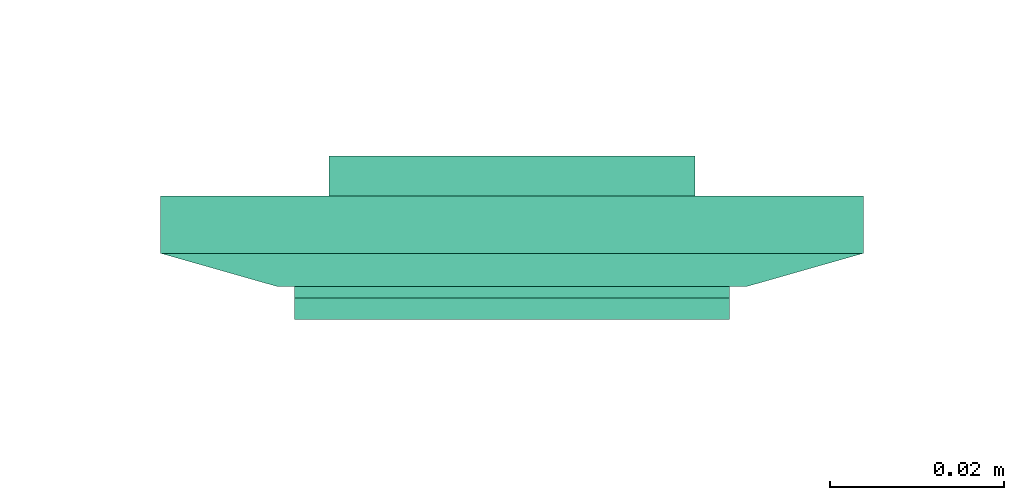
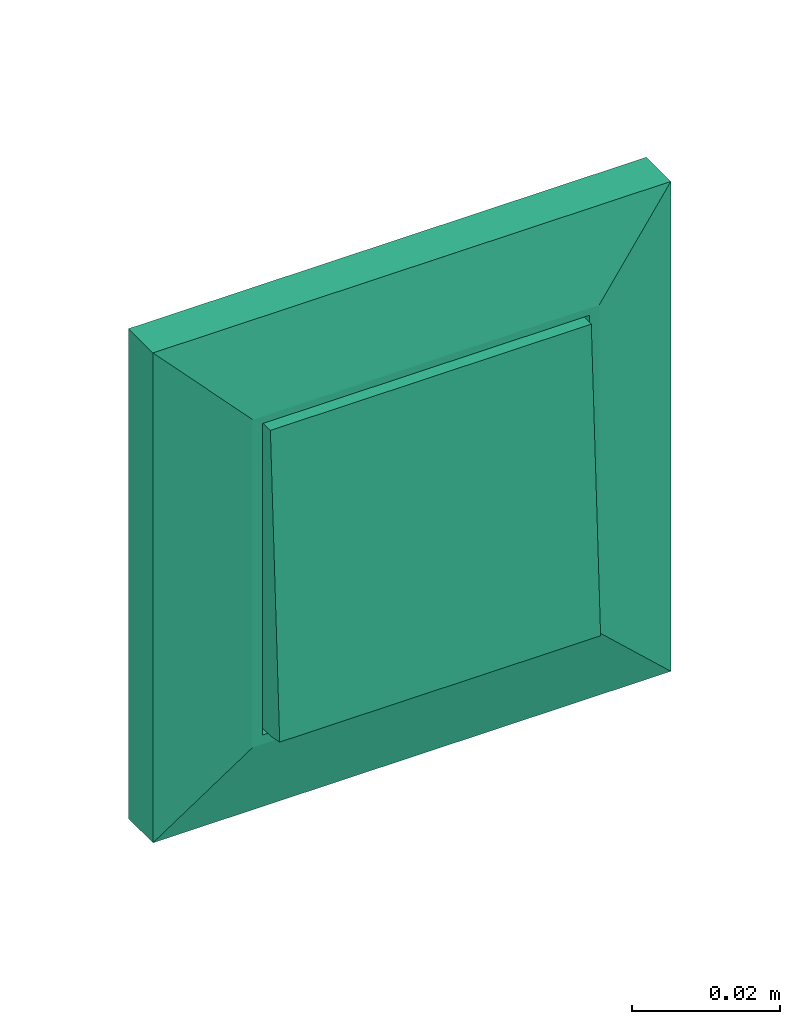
# One storey, part 55 of 153: 1 flow terminal.
"""IFC2X3 building model written with IfcOpenShell, lengths in metres."""

from ifc_helpers import new_model, entity, si_unit, converted_unit, derived_unit, direction, frame, origin, place, context, subcontext, project, spatial, faceted_brep, source, transform, mapped, type_object, type_shapes, element, save


model = new_model("IFC2X3")

# Units and contexts
model_context = context("Model", 3, precision=1e-05, world=origin(), true_north=direction((6.12303176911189e-17, 1.0)))
body_context = subcontext(model_context, "Body", "Model", "MODEL_VIEW")
ifc_project = project(units=[si_unit("LENGTHUNIT", "METRE"), si_unit("AREAUNIT", "SQUARE_METRE"), si_unit("VOLUMEUNIT", "CUBIC_METRE"), converted_unit("PLANEANGLEUNIT", "DEGREE", entity("IfcRatioMeasure", 0.0174532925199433), si_unit("PLANEANGLEUNIT", "RADIAN"), dimensions=[0, 0, 0, 0, 0, 0, 0]), si_unit("MASSUNIT", "GRAM", prefix="KILO"), derived_unit("MASSDENSITYUNIT", [(si_unit("MASSUNIT", "GRAM", prefix="KILO"), 1), (si_unit("LENGTHUNIT", "METRE"), -3)]), si_unit("TIMEUNIT", "SECOND"), si_unit("FREQUENCYUNIT", "HERTZ"), si_unit("THERMODYNAMICTEMPERATUREUNIT", "DEGREE_CELSIUS"), derived_unit("THERMALTRANSMITTANCEUNIT", [(si_unit("MASSUNIT", "GRAM", prefix="KILO"), 1), (si_unit("THERMODYNAMICTEMPERATUREUNIT", "KELVIN"), -1), (si_unit("TIMEUNIT", "SECOND"), -3)]), derived_unit("VOLUMETRICFLOWRATEUNIT", [(si_unit("LENGTHUNIT", "METRE"), 3), (si_unit("TIMEUNIT", "SECOND"), -1)]), si_unit("ELECTRICCURRENTUNIT", "AMPERE"), si_unit("ELECTRICVOLTAGEUNIT", "VOLT"), si_unit("POWERUNIT", "WATT"), si_unit("FORCEUNIT", "NEWTON"), si_unit("ILLUMINANCEUNIT", "LUX"), si_unit("LUMINOUSFLUXUNIT", "LUMEN"), si_unit("LUMINOUSINTENSITYUNIT", "CANDELA"), derived_unit("USERDEFINED", [(si_unit("MASSUNIT", "GRAM", prefix="KILO"), -1), (si_unit("LENGTHUNIT", "METRE"), -2), (si_unit("TIMEUNIT", "SECOND"), 3), (si_unit("LUMINOUSFLUXUNIT", "LUMEN"), 1)]), derived_unit("LINEARVELOCITYUNIT", [(si_unit("LENGTHUNIT", "METRE"), 1), (si_unit("TIMEUNIT", "SECOND"), -1)]), si_unit("PRESSUREUNIT", "PASCAL"), derived_unit("USERDEFINED", [(si_unit("LENGTHUNIT", "METRE"), -2), (si_unit("MASSUNIT", "GRAM", prefix="KILO"), 1), (si_unit("TIMEUNIT", "SECOND"), -2)])], contexts=[model_context])

# Site, building, storey
site_placement = place(None, origin())
site = spatial("IfcSite", under=ifc_project, at=site_placement, Name="Default", CompositionType="ELEMENT")
building_placement = place(site_placement, origin())
building = spatial("IfcBuilding", under=site, at=building_placement, CompositionType="ELEMENT")
storey_placement = place(building_placement, frame((0.0, 0.0, -4.62)))
storey = spatial("IfcBuildingStorey", under=building, at=storey_placement, Name="S02", CompositionType="ELEMENT", Elevation=-4.62)

# Flow terminal
light_fixture_type = type_object("IfcLightFixtureType", Name="SA IP44", PredefinedType="NOTDEFINED")
shared_shape = source(origin(), body_context, "Body", "Brep", [
    faceted_brep([(0.0, 0.0209999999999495, -0.00460000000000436), (0.00543519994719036, 0.02028444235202, -0.00460000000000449), (0.0105000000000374, 0.0181865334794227, -0.00460000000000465), (0.0148492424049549, 0.014849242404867, -0.00460000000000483), (0.0181865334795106, 0.0104999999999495, -0.00460000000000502), (0.0202844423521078, 0.00543519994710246, -0.00460000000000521), (0.0210000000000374, 0.0, -0.00460000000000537), (0.0202844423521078, -0.00543519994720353, -0.00460000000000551), (0.0181865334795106, -0.0105000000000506, -0.0046000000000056), (0.0148492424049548, -0.0148492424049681, -0.00460000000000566), (0.0105000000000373, -0.0181865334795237, -0.00460000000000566), (0.00543519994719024, -0.0202844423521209, -0.00460000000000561), (0.0, -0.0210000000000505, -0.00460000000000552), (-0.00543519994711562, -0.0202844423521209, -0.00460000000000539), (-0.0104999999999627, -0.0181865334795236, -0.00460000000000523), (-0.0148492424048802, -0.0148492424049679, -0.00460000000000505), (-0.0181865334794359, -0.0105000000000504, -0.00460000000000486), (-0.0202844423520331, -0.00543519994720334, -0.00460000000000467), (-0.0209999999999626, 0.0, -0.00460000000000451), (-0.020284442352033, 0.00543519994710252, -0.00460000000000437), (-0.0181865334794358, 0.0104999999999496, -0.00460000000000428), (-0.0148492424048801, 0.0148492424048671, -0.00460000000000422), (-0.0104999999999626, 0.0181865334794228, -0.00460000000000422), (-0.00543519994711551, 0.02028444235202, -0.00460000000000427), (-0.020284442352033, -0.00543519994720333, 0.0), (-0.0209999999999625, 0.0, 0.0), (-0.0181865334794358, -0.0105000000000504, 0.0), (-0.0104999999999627, -0.0181865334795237, 0.0), (-0.0148492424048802, -0.0148492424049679, 0.0), (-0.00543519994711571, -0.020284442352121, 0.0), (0.0, -0.0210000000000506, 0.0), (0.00543519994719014, -0.0202844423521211, 0.0), (0.0105000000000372, -0.018186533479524, 0.0), (0.0181865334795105, -0.0105000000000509, 0.0), (0.0148492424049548, -0.0148492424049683, 0.0), (0.0202844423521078, -0.00543519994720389, 0.0), (0.0210000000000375, 0.0, 0.0), (0.0202844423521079, 0.00543519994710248, 0.0), (0.0181865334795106, 0.0104999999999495, 0.0), (0.0105000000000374, 0.0181865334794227, 0.0), (0.0148492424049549, 0.014849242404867, 0.0), (0.00543519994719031, 0.0202844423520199, 0.0), (0.0, 0.0209999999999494, 0.0), (-0.00543519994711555, 0.0202844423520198, 0.0), (-0.0104999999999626, 0.0181865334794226, 0.0), (-0.0181865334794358, 0.0104999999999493, 0.0), (-0.0148492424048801, 0.0148492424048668, 0.0), (-0.020284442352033, 0.00543519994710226, 0.0)], [[[0, 1, 2, 3, 4, 5, 6, 7, 8, 9, 10, 11, 12, 13, 14, 15, 16, 17, 18, 19, 20, 21, 22, 23]], [[17, 24, 25, 18]], [[16, 26, 24, 17]], [[27, 28, 15, 14]], [[16, 15, 28, 26]], [[29, 27, 14, 13]], [[30, 29, 13, 12]], [[11, 31, 30, 12]], [[10, 32, 31, 11]], [[33, 34, 9, 8]], [[10, 9, 34, 32]], [[35, 33, 8, 7]], [[36, 35, 7, 6]], [[5, 37, 36, 6]], [[4, 38, 37, 5]], [[39, 40, 3, 2]], [[4, 3, 40, 38]], [[41, 39, 2, 1]], [[42, 41, 1, 0]], [[23, 43, 42, 0]], [[22, 44, 43, 23]], [[45, 46, 21, 20]], [[22, 21, 46, 44]], [[47, 45, 20, 19]], [[25, 47, 19, 18]], [[25, 24, 26, 28, 27, 29, 30, 31, 32, 34, 33, 35, 36, 37, 38, 40, 39, 41, 42, 43, 44, 46, 45, 47]]]),
    faceted_brep([(0.0270000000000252, 0.026999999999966, 0.0103999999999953), (-0.0269999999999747, 0.026999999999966, 0.0103999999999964), (-0.0269999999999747, -0.0270000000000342, 0.0103999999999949), (0.0270000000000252, -0.0270000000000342, 0.0103999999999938), (-0.0254999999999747, 0.0258096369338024, 0.0103999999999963), (0.0255000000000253, 0.0258096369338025, 0.0103999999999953), (0.0255000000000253, -0.0255000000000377, 0.0103999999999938), (-0.0254999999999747, -0.0255000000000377, 0.0103999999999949), (0.0270000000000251, 0.0269999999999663, 0.00199999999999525), (0.0270000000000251, -0.0270000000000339, 0.00199999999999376), (-0.0269999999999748, -0.0270000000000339, 0.00199999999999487), (-0.0269999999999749, 0.0269999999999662, 0.00199999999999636), (0.0255000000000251, 0.0258096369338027, 0.00199999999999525), (-0.0254999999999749, 0.0258096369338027, 0.0019999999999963), (-0.0254999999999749, -0.0255000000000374, 0.00199999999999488), (0.0255000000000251, -0.0255000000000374, 0.00199999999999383)], [[[0, 1, 2, 3], [4, 5, 6, 7]], [[8, 9, 10, 11], [12, 13, 14, 15]], [[1, 0, 8, 11]], [[2, 1, 11, 10]], [[3, 2, 10, 9]], [[0, 3, 9, 8]], [[12, 5, 4, 13]], [[13, 4, 7, 14]], [[14, 7, 6, 15]], [[5, 12, 15, 6]]]),
    faceted_brep([(0.0250000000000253, 0.0253096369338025, 0.00659999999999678), (0.0250000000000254, 0.0253096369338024, 0.0117095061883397), (0.0250000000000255, -0.0245000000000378, 0.0142232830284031), (0.0250000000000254, -0.0250000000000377, 0.0117095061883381), (0.0250000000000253, -0.0250000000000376, 0.00659999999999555), (-0.0249999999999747, 0.0253096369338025, 0.00659999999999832), (-0.0249999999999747, -0.0250000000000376, 0.00659999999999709), (-0.0249999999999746, -0.0250000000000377, 0.0117095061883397), (-0.0249999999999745, -0.0245000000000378, 0.0142232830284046), (-0.0249999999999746, 0.0253096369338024, 0.0117095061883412)], [[[0, 1, 2, 3, 4]], [[5, 6, 7, 8, 9]], [[1, 0, 5, 9]], [[2, 1, 9, 8]], [[3, 2, 8, 7]], [[4, 3, 7, 6]], [[0, 4, 6, 5]]]),
    faceted_brep([(0.027000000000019, 0.0269999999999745, 0.00659999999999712), (-0.0269999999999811, 0.0269999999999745, 0.00659999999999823), (-0.026999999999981, -0.0270000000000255, 0.00659999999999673), (0.027000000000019, -0.0270000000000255, 0.00659999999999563), (0.040350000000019, 0.0403499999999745, 0.00659999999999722), (0.040350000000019, -0.0403500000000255, 0.00659999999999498), (-0.0403499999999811, -0.0403500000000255, 0.00659999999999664), (-0.0403499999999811, 0.0403499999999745, 0.00659999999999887), (-0.026999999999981, 0.0269999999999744, 0.0103999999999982), (0.027000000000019, 0.0269999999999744, 0.0103999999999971), (-0.026999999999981, -0.0270000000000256, 0.0103999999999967), (0.027000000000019, -0.0270000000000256, 0.0103999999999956)], [[[0, 1, 2, 3], [4, 5, 6, 7]], [[4, 7, 8, 9]], [[7, 6, 10, 8]], [[6, 5, 11, 10]], [[5, 4, 9, 11]], [[0, 9, 8, 1]], [[1, 8, 10, 2]], [[2, 10, 11, 3]], [[9, 0, 3, 11]]], outer=[[False, True], [True], [True], [True], [True], [True], [True], [True], [True]]),
    faceted_brep([(0.040350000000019, 0.0403499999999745, 0.00659999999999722), (-0.0403499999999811, 0.0403499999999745, 0.00659999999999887), (-0.0403499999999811, -0.0403500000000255, 0.00659999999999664), (0.040350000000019, -0.0403500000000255, 0.00659999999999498), (-0.0269999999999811, 0.0269999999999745, 0.00659999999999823), (0.0270000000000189, 0.0269999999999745, 0.00659999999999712), (0.0270000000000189, -0.0270000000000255, 0.00659999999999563), (-0.0269999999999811, -0.0270000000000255, 0.00659999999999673), (0.0403500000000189, 0.0403499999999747, 0.0), (0.0403500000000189, -0.0403500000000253, 0.0), (-0.0403499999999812, -0.0403500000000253, 0.0), (-0.0403499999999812, 0.0403499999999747, 0.0), (0.0270000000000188, 0.0269999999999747, 0.0), (-0.0269999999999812, 0.0269999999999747, 0.0), (-0.0269999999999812, -0.0270000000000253, 0.0), (0.0270000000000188, -0.0270000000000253, 0.0)], [[[0, 1, 2, 3], [4, 5, 6, 7]], [[8, 9, 10, 11], [12, 13, 14, 15]], [[1, 0, 8, 11]], [[2, 1, 11, 10]], [[3, 2, 10, 9]], [[0, 3, 9, 8]], [[12, 5, 4, 13]], [[13, 4, 7, 14]], [[14, 7, 6, 15]], [[5, 12, 15, 6]]]),
])
type_shapes(light_fixture_type, [shared_shape])
flow_terminal_placement = place(storey_placement, frame((38.5149635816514, -186.914488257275, 0.880000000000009), z_axis=(0.0, -1.0, 0.0), x_axis=(1.0, 0.0, 0.0)))
element("IfcFlowTerminal", 1, at=flow_terminal_placement, inside=storey, type_object=light_fixture_type, Name="INT_Inter SA:SA IP44", ObjectType="INT_Inter SA:SA IP44", context=body_context, shape_type="MappedRepresentation", body=[
    mapped(shared_shape, transform((0.0, 0.0, 0.0), scale=1.0)),
])

save(model, "model.ifc")
